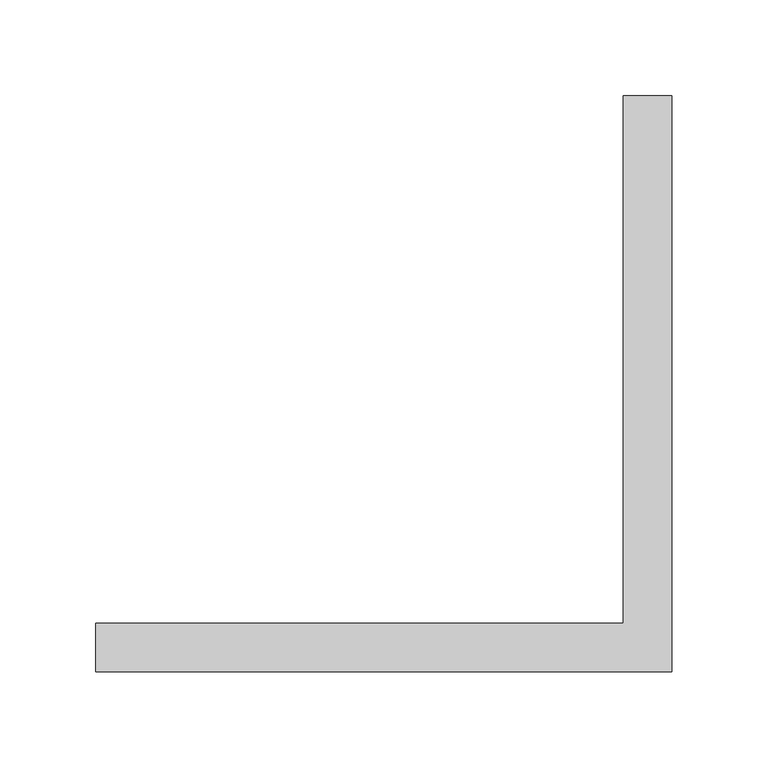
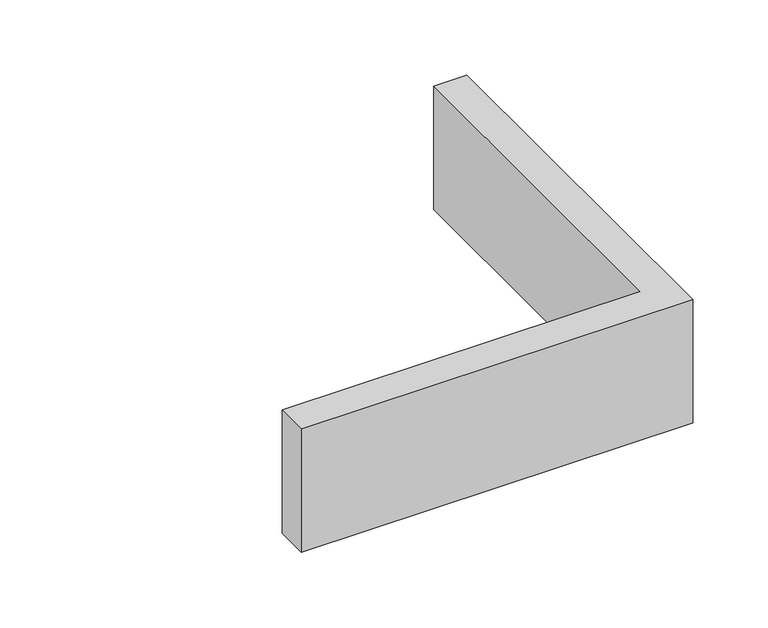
"""IFC4 building model written with IfcOpenShell, lengths in millimetres: cable carrier fitting geometry, BAKS_LDLS_BEND_2 x Angle connector_LKSU : 2 x LKSUC_H100."""

from ifc_helpers import new_model, si_unit, frame, origin, place, context, project, spatial, polyline, outline, extrude, source, transform, mapped, element, save


def cable_carrier_fitting_50edb55a(model_context):
    return source(origin(), model_context, "Body", "SweptSolid", [
        extrude(outline(polyline([(-150.0, -150.0), (-150.0, -124.6), (124.6, -124.6), (124.6, 150.0), (150.0, 150.0), (150.0, -150.0), (-150.0, -150.0)])), frame((0.0, 0.0, -50.0), z_axis=(0.0, 0.0, 1.0), x_axis=(1.0, 0.0, 0.0)), (0.0, 0.0, 1.0), 100.0),
    ])


if __name__ == "__main__":
    model = new_model("IFC4")
    model_context = context("Model", 3, world=origin())
    ifc_project = project(units=[si_unit("LENGTHUNIT", "METRE", prefix="MILLI")], contexts=[model_context])
    site = spatial("IfcSite", under=ifc_project)
    building = spatial("IfcBuilding", under=site)
    placement = place(None, origin())
    cable_carrier_fitting_shape = cable_carrier_fitting_50edb55a(model_context)
    element("IfcCableCarrierFitting", 1, ObjectType="BAKS_LDLS_BEND_2 x Angle connector_LKSU : 2 x LKSUC_H100", at=placement, inside=building, context=model_context, shape_type="MappedRepresentation", body=[
        mapped(cable_carrier_fitting_shape, transform((0.0, 0.0, 0.0), x_axis=(1.0, 0.0, 0.0), y_axis=(0.0, 1.0, 0.0), z_axis=(0.0, 0.0, 1.0))),
    ])
    save(model, "model.ifc")
